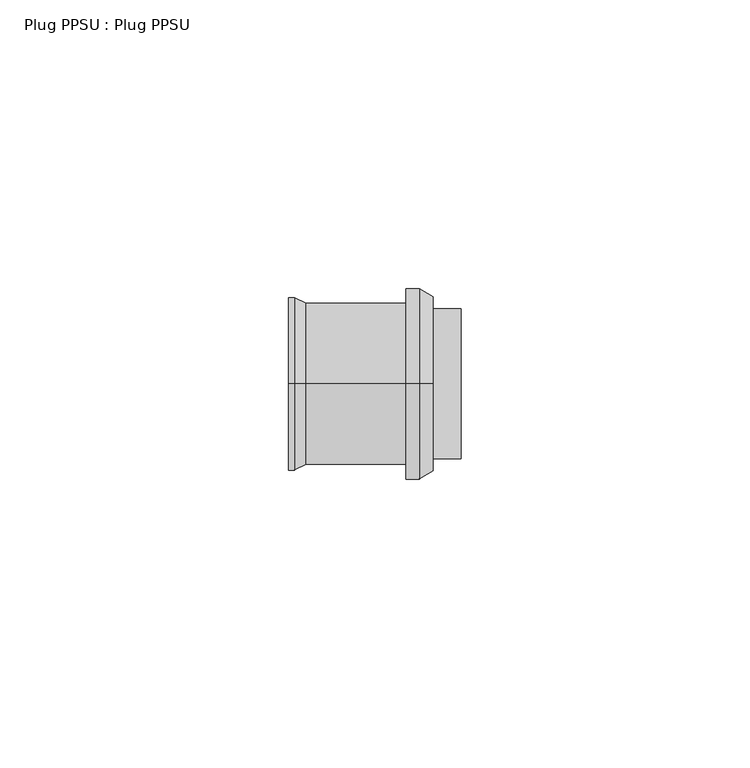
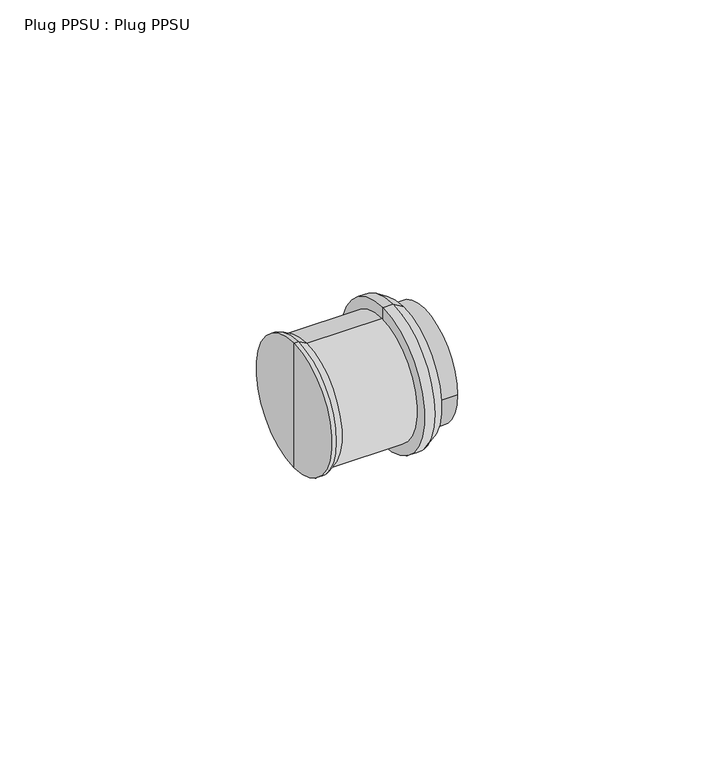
"""IFC4 building model written with IfcOpenShell, lengths in millimetres: pipe fitting geometry, Plug PPSU : Plug PPSU."""

from ifc_helpers import new_model, si_unit, point, frame, origin, origin_2d, place, context, project, spatial, polyline, circle_curve, trimmed, segment, composite_curve, outline, extrude, source, transform, mapped, element, save
from ifc_brep_helpers import plane_surface, cylinder_surface, revolved_surface, advanced_brep


def plug_ppsu_plug_ppsu_6ec936de(model_context):
    return source(origin(), model_context, "Body", "SolidModel", [
        advanced_brep(
        [(1.0, 0.0, 0.0), (1.0, 0.0, 15.1432269), (1.0, 0.0, -15.1432269), (-3.7, 0.0, -16.5), (-3.7, 0.0, 16.5), (-3.7, 0.0, 0.0), (-1.35, 0.0, -16.5), (-1.35, 0.0, 16.5)],
        [
            (0, 1),
            (1, 2, circle_curve(frame((1.0, 0.0, 0.0), z_axis=(1.0, 0.0, 0.0), x_axis=(0.0, 0.0, 1.0)), 15.1432269)),
            (2, 0),
            (2, 1, circle_curve(frame((1.0, 0.0, 0.0), z_axis=(1.0, 0.0, 0.0), x_axis=(0.0, 0.0, 1.0)), 15.1432269)),
            (3, 4, circle_curve(frame((-3.7, 0.0, 0.0), z_axis=(-1.0, 0.0, 0.0), x_axis=(0.0, 0.0, 1.0)), 16.5)),
            (4, 5),
            (5, 3),
            (4, 3, circle_curve(frame((-3.7, 0.0, 0.0), z_axis=(-1.0, 0.0, 0.0), x_axis=(0.0, 0.0, 1.0)), 16.5)),
            (6, 7, circle_curve(frame((-1.35, 0.0, 0.0), z_axis=(-1.0, 0.0, 0.0), x_axis=(0.0, 0.0, 1.0)), 16.5)),
            (7, 4),
            (3, 6),
            (7, 6, circle_curve(frame((-1.35, 0.0, 0.0), z_axis=(-1.0, 0.0, 0.0), x_axis=(0.0, 0.0, 1.0)), 16.5)),
            (1, 7),
            (6, 2),
        ],
        [
            plane_surface(frame((1.0, 0.0, 0.0), z_axis=(1.0, 0.0, 0.0), x_axis=(0.0, 0.0, 1.0))),
            plane_surface(frame((-3.7, 0.0, 0.0), z_axis=(-1.0, 0.0, 0.0), x_axis=(0.0, 0.0, 1.0))),
            cylinder_surface(frame((0.0, 0.0, 0.0), z_axis=(1.0, 0.0, 0.0), x_axis=(0.0, 0.0, 1.0)), 16.5),
            revolved_surface(polyline([(-1.35, 0.0, 16.5), (1.0, 0.0, 15.1432269)]), (0.0, 0.0, 0.0), (1.0, 0.0, 0.0)),
        ],
        [
            (0, [[1, 2, 3]]),
            (0, [[-3, 4, -1]]),
            (1, [[5, 6, 7]]),
            (1, [[8, -7, -6]]),
            (2, [[9, 10, -5, 11]]),
            (2, [[12, -11, -8, -10]]),
            (3, [[-2, 13, -9, 14]]),
            (3, [[-4, -14, -12, -13]]),
        ],
    ),
        advanced_brep(
        [(-3.7, 0.0, -14.0), (-3.7, 0.0, 14.0), (-21.0, 0.0, 14.0), (-21.0, 0.0, -14.0), (-24.0, 0.0, -15.0), (-24.0, 0.0, 15.0), (-24.0, 0.0, 0.0), (-3.7, 0.0, 0.0), (-23.0, 0.0, -15.0), (-23.0, 0.0, 15.0)],
        [
            (0, 1, circle_curve(frame((-3.7, 0.0, 0.0), z_axis=(-1.0, 0.0, 0.0), x_axis=(0.0, 0.0, 1.0)), 14.0)),
            (1, 2),
            (2, 3, circle_curve(frame((-21.0, 0.0, 0.0), z_axis=(1.0, 0.0, 0.0), x_axis=(0.0, 0.0, 1.0)), 14.0)),
            (3, 0),
            (1, 0, circle_curve(frame((-3.7, 0.0, 0.0), z_axis=(-1.0, 0.0, 0.0), x_axis=(0.0, 0.0, 1.0)), 14.0)),
            (3, 2, circle_curve(frame((-21.0, 0.0, 0.0), z_axis=(1.0, 0.0, 0.0), x_axis=(0.0, 0.0, 1.0)), 14.0)),
            (4, 5, circle_curve(frame((-24.0, 0.0, 0.0), z_axis=(-1.0, 0.0, 0.0), x_axis=(0.0, 0.0, 1.0)), 15.0)),
            (5, 6),
            (6, 4),
            (5, 4, circle_curve(frame((-24.0, 0.0, 0.0), z_axis=(-1.0, 0.0, 0.0), x_axis=(0.0, 0.0, 1.0)), 15.0)),
            (7, 1),
            (0, 7),
            (8, 9, circle_curve(frame((-23.0, 0.0, 0.0), z_axis=(-1.0, 0.0, 0.0), x_axis=(0.0, 0.0, 1.0)), 15.0)),
            (9, 5),
            (4, 8),
            (9, 8, circle_curve(frame((-23.0, 0.0, 0.0), z_axis=(-1.0, 0.0, 0.0), x_axis=(0.0, 0.0, 1.0)), 15.0)),
            (2, 9),
            (8, 3),
        ],
        [
            cylinder_surface(frame((1911.8038476, 0.0, 0.0), z_axis=(1.0, 0.0, 0.0), x_axis=(0.0, 0.0, 1.0)), 14.0),
            plane_surface(frame((-24.0, 0.0, 0.0), z_axis=(-1.0, 0.0, 0.0), x_axis=(0.0, 0.0, 1.0))),
            plane_surface(frame((-3.7, 0.0, 0.0), z_axis=(1.0, 0.0, 0.0), x_axis=(0.0, 0.0, 1.0))),
            cylinder_surface(frame((1911.8038476, 0.0, 0.0), z_axis=(1.0, 0.0, 0.0), x_axis=(0.0, 0.0, 1.0)), 15.0),
            revolved_surface(polyline([(-23.0, 0.0, 15.0), (-21.0, 0.0, 14.0)]), (1911.8038476, 0.0, 0.0), (1.0, 0.0, 0.0)),
        ],
        [
            (0, [[1, 2, 3, 4]]),
            (0, [[5, -4, 6, -2]]),
            (1, [[7, 8, 9]]),
            (1, [[10, -9, -8]]),
            (2, [[11, -1, 12]]),
            (2, [[-12, -5, -11]]),
            (3, [[13, 14, -7, 15]]),
            (3, [[16, -15, -10, -14]]),
            (4, [[-3, 17, -13, 18]]),
            (4, [[-6, -18, -16, -17]]),
        ],
    ),
        extrude(outline(composite_curve([segment(trimmed(circle_curve(origin_2d(), 13.0), [point((13.0, 0.0))], [point((-13.0, 0.0))], False, "CARTESIAN"), True, "CONTINUOUS"), segment(trimmed(circle_curve(origin_2d(), 13.0), [point((-13.0, 0.0))], [point((13.0, 0.0))], False, "CARTESIAN"), True, "CONTINUOUS")], self_intersect=False)), frame((0.0, 0.0, 0.0), z_axis=(1.0, 0.0, 0.0), x_axis=(0.0, 1.0, 0.0)), (0.0, 0.0, 1.0), 5.85),
    ])


if __name__ == "__main__":
    model = new_model("IFC4")
    model_context = context("Model", 3, world=origin())
    ifc_project = project(units=[si_unit("LENGTHUNIT", "METRE", prefix="MILLI")], contexts=[model_context])
    site = spatial("IfcSite", under=ifc_project)
    building = spatial("IfcBuilding", under=site)
    placement = place(None, origin())
    plug_ppsu_plug_ppsu_shape = plug_ppsu_plug_ppsu_6ec936de(model_context)
    element("IfcPipeFitting", 1, ObjectType="Plug PPSU : Plug PPSU", at=placement, inside=building, context=model_context, shape_type="MappedRepresentation", body=[
        mapped(plug_ppsu_plug_ppsu_shape, transform((0.0, 0.0, 0.0), x_axis=(1.0, 0.0, 0.0), y_axis=(0.0, 1.0, 0.0), z_axis=(0.0, 0.0, 1.0))),
    ])
    save(model, "model.ifc")
